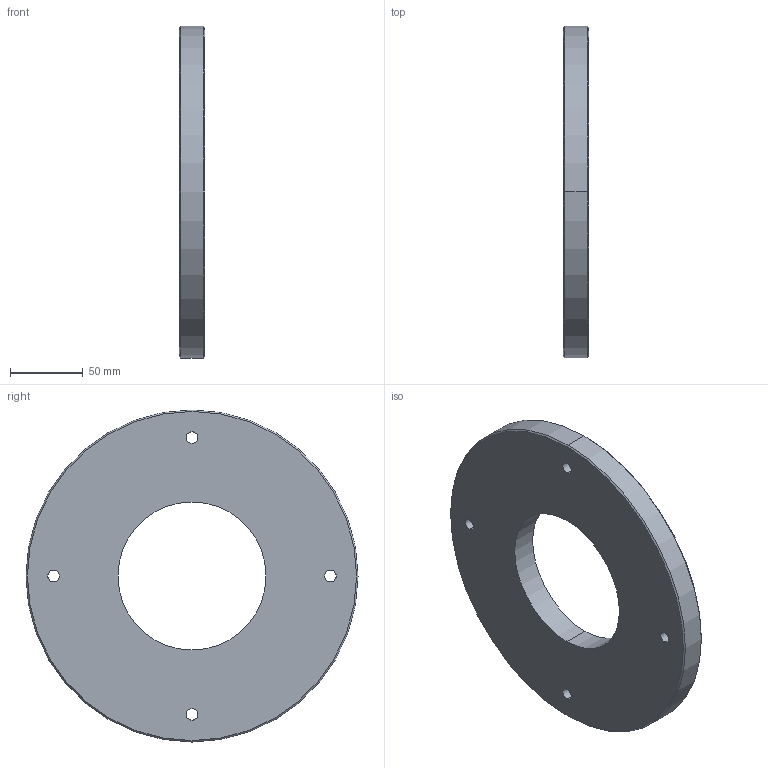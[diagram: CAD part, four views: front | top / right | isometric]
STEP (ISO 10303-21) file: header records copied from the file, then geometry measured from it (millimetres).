
FILE_DESCRIPTION (( 'STEP AP214' ), '1' );
FILE_NAME ('E38SL-6L4.0.STEP', '2016-05-23T04:44:31', ( 'eran' ), ( '' ), 'SwSTEP 2.0', 'SolidWorks 2016', '' );
FILE_SCHEMA (( 'AUTOMOTIVE_DESIGN' ));
Length unit declared in the file: millimetre
Products named in the file (1): E38SL-6L4.0
Bounding box: 17.5 x 228.6 x 228.6 mm (x, y, z)
Volume: 571306 mm3; surface area: 84459.4 mm2
Topology: 1 solids, 1 shells, 18 faces, 44 edges, 28 vertices
Faces by surface type: cylinder 12, cone 4, plane 2
Entity records: 598 total; most frequent: DIRECTION 110, CARTESIAN_POINT 91, ORIENTED_EDGE 88, AXIS2_PLACEMENT_3D 47, EDGE_CURVE 44, CIRCLE 28, EDGE_LOOP 28, VERTEX_POINT 28
